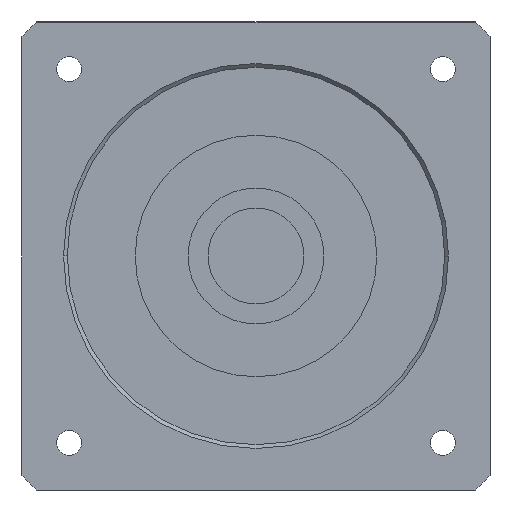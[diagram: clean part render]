
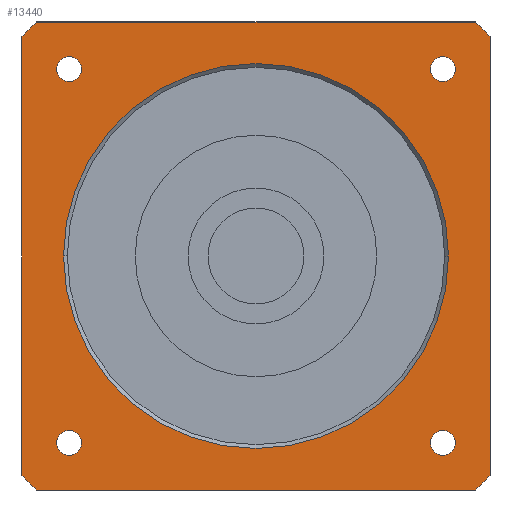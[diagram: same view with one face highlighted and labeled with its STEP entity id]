
A CAD part, left-side view. The second image highlights one B-rep face of the part: STEP entity #13440.
In plain terms, the highlighted planar face has unit normal (-1, 0, 0) as drawn and (0, 0, -1) by its records, which use the part's own axes.
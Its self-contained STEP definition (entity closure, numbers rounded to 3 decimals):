
#8640=CARTESIAN_POINT('',(-24.749,26.399,-36.));
#8650=VERTEX_POINT('',#8640);
#8830=CARTESIAN_POINT('',(-24.749,23.099,-36.));
#8840=VERTEX_POINT('',#8830);
#8870=CARTESIAN_POINT('',(-24.749,24.749,-36.));
#8880=DIRECTION('',(0.,0.,-1.));
#8890=DIRECTION('',(1.,0.,0.));
#8900=AXIS2_PLACEMENT_3D('',#8870,#8880,#8890);
#8910=CIRCLE('',#8900,1.65);
#8920=CARTESIAN_POINT('',(-23.099,24.749,-36.));
#8930=VERTEX_POINT('',#8920);
#8940=EDGE_CURVE('',#8930,#8840,#8910,.T.);
#8960=EDGE_CURVE('',#8650,#8930,#8910,.T.);
#9100=CARTESIAN_POINT('',(24.749,26.399,-36.));
#9110=VERTEX_POINT('',#9100);
#9290=CARTESIAN_POINT('',(24.749,23.099,-36.));
#9300=VERTEX_POINT('',#9290);
#9330=CARTESIAN_POINT('',(24.749,24.749,-36.));
#9340=DIRECTION('',(0.,0.,-1.));
#9350=DIRECTION('',(1.,0.,0.));
#9360=AXIS2_PLACEMENT_3D('',#9330,#9340,#9350);
#9370=CIRCLE('',#9360,1.65);
#9380=CARTESIAN_POINT('',(26.399,24.749,-36.));
#9390=VERTEX_POINT('',#9380);
#9400=EDGE_CURVE('',#9390,#9300,#9370,.T.);
#9420=EDGE_CURVE('',#9110,#9390,#9370,.T.);
#11820=CARTESIAN_POINT('',(25.5,0.,-36.));
#11830=VERTEX_POINT('',#11820);
#11860=CARTESIAN_POINT('',(0.,0.,
-36.));
#11870=DIRECTION('',(0.,0.,1.));
#11880=DIRECTION('',(0.,1.,0.));
#11890=AXIS2_PLACEMENT_3D('',#11860,#11870,#11880);
#11900=CIRCLE('',#11890,25.5);
#11910=CARTESIAN_POINT('',(0.,25.5,-36.));
#11920=VERTEX_POINT('',#11910);
#11930=EDGE_CURVE('',#11830,#11920,#11900,.T.);
#11950=CARTESIAN_POINT('',(-25.5,0.,-36.));
#11960=VERTEX_POINT('',#11950);
#11970=EDGE_CURVE('',#11920,#11960,#11900,.T.);
#12130=CARTESIAN_POINT('',(31.,-31.,-36.));
#12140=DIRECTION('',(0.,0.,1.));
#12150=DIRECTION('',(0.,1.,0.));
#12160=AXIS2_PLACEMENT_3D('',#12130,#12140,#12150);
#12170=PLANE('',#12160);
#12180=CARTESIAN_POINT('',(-24.749,-24.749,-36.));
#12190=DIRECTION('',(0.,0.,-1.));
#12200=DIRECTION('',(1.,0.,0.));
#12210=AXIS2_PLACEMENT_3D('',#12180,#12190,#12200);
#12220=CIRCLE('',#12210,1.65);
#12230=CARTESIAN_POINT('',(-23.099,-24.749,-36.));
#12240=VERTEX_POINT('',#12230);
#12250=CARTESIAN_POINT('',(-24.749,-26.399,-36.));
#12260=VERTEX_POINT('',#12250);
#12270=EDGE_CURVE('',#12240,#12260,#12220,.T.);
#12280=ORIENTED_EDGE('',*,*,#12270,.F.);
#12290=CARTESIAN_POINT('',(-24.749,-23.099,-36.));
#12300=VERTEX_POINT('',#12290);
#12310=EDGE_CURVE('',#12260,#12300,#12220,.T.);
#12320=ORIENTED_EDGE('',*,*,#12310,.F.);
#12330=EDGE_CURVE('',#12300,#12240,#12220,.T.);
#12340=ORIENTED_EDGE('',*,*,#12330,.F.);
#12350=EDGE_LOOP('',(#12340,#12320,#12280));
#12360=FACE_BOUND('',#12350,.T.);
#12370=CARTESIAN_POINT('',(24.749,-24.749,-36.));
#12380=DIRECTION('',(0.,0.,-1.));
#12390=DIRECTION('',(1.,0.,0.));
#12400=AXIS2_PLACEMENT_3D('',#12370,#12380,#12390);
#12410=CIRCLE('',#12400,1.65);
#12420=CARTESIAN_POINT('',(26.399,-24.749,-36.));
#12430=VERTEX_POINT('',#12420);
#12440=CARTESIAN_POINT('',(24.749,-26.399,-36.));
#12450=VERTEX_POINT('',#12440);
#12460=EDGE_CURVE('',#12430,#12450,#12410,.T.);
#12470=ORIENTED_EDGE('',*,*,#12460,.F.);
#12480=CARTESIAN_POINT('',(24.749,-23.099,-36.));
#12490=VERTEX_POINT('',#12480);
#12500=EDGE_CURVE('',#12450,#12490,#12410,.T.);
#12510=ORIENTED_EDGE('',*,*,#12500,.F.);
#12520=EDGE_CURVE('',#12490,#12430,#12410,.T.);
#12530=ORIENTED_EDGE('',*,*,#12520,.F.);
#12540=EDGE_LOOP('',(#12530,#12510,#12470));
#12550=FACE_BOUND('',#12540,.T.);
#12560=ORIENTED_EDGE('',*,*,#9400,.F.);
#12570=EDGE_CURVE('',#9300,#9110,#9370,.T.);
#12580=ORIENTED_EDGE('',*,*,#12570,.F.);
#12590=ORIENTED_EDGE('',*,*,#9420,.F.);
#12600=EDGE_LOOP('',(#12590,#12580,#12560));
#12610=FACE_BOUND('',#12600,.T.);
#12620=ORIENTED_EDGE('',*,*,#8940,.F.);
#12630=EDGE_CURVE('',#8840,#8650,#8910,.T.);
#12640=ORIENTED_EDGE('',*,*,#12630,.F.);
#12650=ORIENTED_EDGE('',*,*,#8960,.F.);
#12660=EDGE_LOOP('',(#12650,#12640,#12620));
#12670=FACE_BOUND('',#12660,.T.);
#12680=EDGE_CURVE('',#11960,#11830,#11900,.T.);
#12690=ORIENTED_EDGE('',*,*,#12680,.T.);
#12700=ORIENTED_EDGE('',*,*,#11970,.T.);
#12710=ORIENTED_EDGE('',*,*,#11930,.T.);
#12720=EDGE_LOOP('',(#12710,#12700,#12690));
#12730=FACE_BOUND('',#12720,.T.);
#12740=CARTESIAN_POINT('',(0.,0.,
-36.));
#12750=DIRECTION('',(0.,0.,1.));
#12760=DIRECTION('',(0.,1.,0.));
#12770=AXIS2_PLACEMENT_3D('',#12740,#12750,#12760);
#12780=CIRCLE('',#12770,42.5);
#12790=CARTESIAN_POINT('',(-29.073,31.,-36.));
#12800=VERTEX_POINT('',#12790);
#12810=CARTESIAN_POINT('',(-31.,29.073,-36.));
#12820=VERTEX_POINT('',#12810);
#12830=EDGE_CURVE('',#12800,#12820,#12780,.T.);
#12840=ORIENTED_EDGE('',*,*,#12830,.F.);
#12850=CARTESIAN_POINT('',(-31.,31.,-36.));
#12860=DIRECTION('',(0.,-1.,0.));
#12870=VECTOR('',#12860,1000.);
#12880=LINE('',#12850,#12870);
#12890=CARTESIAN_POINT('',(-31.,-29.073,-36.));
#12900=VERTEX_POINT('',#12890);
#12910=EDGE_CURVE('',#12820,#12900,#12880,.T.);
#12920=ORIENTED_EDGE('',*,*,#12910,.F.);
#12930=CARTESIAN_POINT('',(0.,0.,
-36.));
#12940=DIRECTION('',(0.,0.,1.));
#12950=DIRECTION('',(0.,1.,0.));
#12960=AXIS2_PLACEMENT_3D('',#12930,#12940,#12950);
#12970=CIRCLE('',#12960,42.5);
#12980=CARTESIAN_POINT('',(-29.073,-31.,-36.));
#12990=VERTEX_POINT('',#12980);
#13000=EDGE_CURVE('',#12900,#12990,#12970,.T.);
#13010=ORIENTED_EDGE('',*,*,#13000,.F.);
#13020=CARTESIAN_POINT('',(-31.,-31.,-36.));
#13030=DIRECTION('',(1.,0.,0.));
#13040=VECTOR('',#13030,1000.);
#13050=LINE('',#13020,#13040);
#13060=CARTESIAN_POINT('',(29.073,-31.,-36.));
#13070=VERTEX_POINT('',#13060);
#13080=EDGE_CURVE('',#12990,#13070,#13050,.T.);
#13090=ORIENTED_EDGE('',*,*,#13080,.F.);
#13100=CARTESIAN_POINT('',(0.,0.,
-36.));
#13110=DIRECTION('',(0.,0.,1.));
#13120=DIRECTION('',(0.,1.,0.));
#13130=AXIS2_PLACEMENT_3D('',#13100,#13110,#13120);
#13140=CIRCLE('',#13130,42.5);
#13150=CARTESIAN_POINT('',(31.,-29.073,-36.));
#13160=VERTEX_POINT('',#13150);
#13170=EDGE_CURVE('',#13070,#13160,#13140,.T.);
#13180=ORIENTED_EDGE('',*,*,#13170,.F.);
#13190=CARTESIAN_POINT('',(31.,-31.,-36.));
#13200=DIRECTION('',(0.,1.,0.));
#13210=VECTOR('',#13200,1000.);
#13220=LINE('',#13190,#13210);
#13230=CARTESIAN_POINT('',(31.,29.073,-36.));
#13240=VERTEX_POINT('',#13230);
#13250=EDGE_CURVE('',#13160,#13240,#13220,.T.);
#13260=ORIENTED_EDGE('',*,*,#13250,.F.);
#13270=CARTESIAN_POINT('',(0.,0.,
-36.));
#13280=DIRECTION('',(0.,0.,1.));
#13290=DIRECTION('',(1.,0.,0.));
#13300=AXIS2_PLACEMENT_3D('',#13270,#13280,#13290);
#13310=CIRCLE('',#13300,42.5);
#13320=CARTESIAN_POINT('',(29.073,31.,-36.));
#13330=VERTEX_POINT('',#13320);
#13340=EDGE_CURVE('',#13240,#13330,#13310,.T.);
#13350=ORIENTED_EDGE('',*,*,#13340,.F.);
#13360=CARTESIAN_POINT('',(31.,31.,-36.));
#13370=DIRECTION('',(-1.,0.,0.));
#13380=VECTOR('',#13370,1000.);
#13390=LINE('',#13360,#13380);
#13400=EDGE_CURVE('',#13330,#12800,#13390,.T.);
#13410=ORIENTED_EDGE('',*,*,#13400,.F.);
#13420=EDGE_LOOP('',(#13410,#13350,#13260,#13180,#13090,#13010,#12920,
#12840));
#13430=FACE_OUTER_BOUND('',#13420,.T.);
#13440=ADVANCED_FACE('',(#12360,#12550,#12610,#12670,#12730,#13430),
#12170,.F.);
